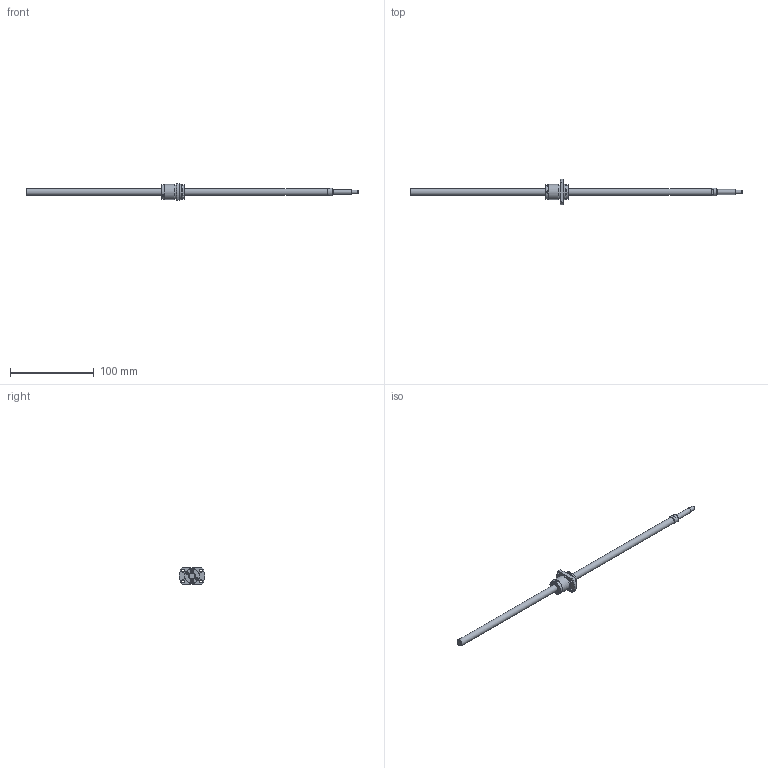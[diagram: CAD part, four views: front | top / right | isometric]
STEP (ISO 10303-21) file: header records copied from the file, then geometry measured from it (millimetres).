
FILE_DESCRIPTION(/* description */ ('STEP AP214'),/* implementation_level */ '2;1');
FILE_NAME(/* name */ 'SRT0812-356R397C7A0X(162.5Processing)',/* time_stamp */ '2026-08-04T20:06:02+02:00',/* author */ ('License CC BY-ND 4.0'),/* organization */ ('CADENAS'),/* preprocessor_version */ 'ST-DEVELOPER v20',/* originating_system */ 'PARTsolutions',/* authorisation */ ' ');
FILE_SCHEMA (('AUTOMOTIVE_DESIGN {1 0 10303 214 3 1 1}'));
Length unit declared in the file: millimetre
Products named in the file (3): SRT0812-356R397C7A0X(162.5Processing); SRT0812-356R430ACt7Processing50Shaft; SRT0812Nut
Assembly tree (2 placements, depth 2):
  SRT0812-356R397C7A0X(162.5Processing)
    SRT0812-356R430ACt7Processing50Shaft
    SRT0812Nut
Bounding box: 397 x 30.91 x 20 mm (x, y, z)
Volume: 25738 mm3; surface area: 13596.2 mm2
Topology: 2 solids, 2 shells, 151 faces, 360 edges, 236 vertices
Faces by surface type: plane 103, cylinder 36, cone 11, torus 1
Full cylindrical faces by diameter (mm): 3 x8, 3.4 x4, 4.5 x1, 6 x1, 8 x2, 9.5 x1, 17.5 x1, 17.7 x2, 18 x2
Entity records: 4287 total; most frequent: CARTESIAN_POINT 740, DIRECTION 722, ORIENTED_EDGE 656, EDGE_CURVE 328, AXIS2_PLACEMENT_3D 248, VERTEX_POINT 234, LINE 226, VECTOR 226
